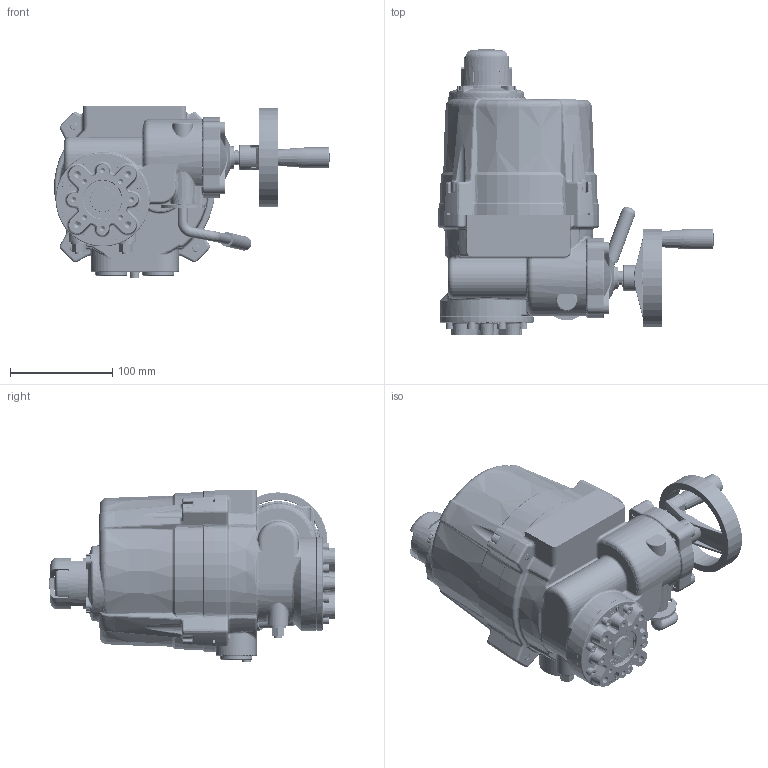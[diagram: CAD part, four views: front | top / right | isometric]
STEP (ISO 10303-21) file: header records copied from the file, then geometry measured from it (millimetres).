
FILE_DESCRIPTION (( 'STEP AP214' ), '1' );
FILE_NAME ('JYH-006-010-ぱ籵羲壽倰.STEP', '2024-07-24T01:23:57', ( 'Windows User' ), ( 'P R C' ), 'SwSTEP 2.0', 'SolidWorks 2015', '' );
FILE_SCHEMA (( 'AUTOMOTIVE_DESIGN' ));
Length unit declared in the file: millimetre
Products named in the file (5): JYH10-62諉華梓祩; JYH10-57-3D指示柱-印字_默认<按加工>; JYH10-72手轮标识垫圈; JYH10-00 軞傖妗极3D俋倛; JYH-006-010-ぱ籵羲壽倰
Assembly tree (4 placements, depth 2):
  JYH-006-010-ぱ籵羲壽倰
    JYH10-00 軞傖妗极3D俋倛
    JYH10-72手轮标识垫圈
    JYH10-57-3D指示柱-印字_默认<按加工>
    JYH10-62諉華梓祩
Bounding box: 269.66 x 279.6 x 169.3 mm (x, y, z)
Volume: 1810583.1 mm3; surface area: 464049 mm2
Topology: 72 solids, 73 shells, 5587 faces, 13980 edges, 8596 vertices
Faces by surface type: bspline 1899, plane 1348, cylinder 1209, torus 597, cone 386, sphere 148
Entity records: 302612 total; most frequent: CARTESIAN_POINT 165865, ORIENTED_EDGE 27476, DIRECTION 21176, EDGE_CURVE 13738, AXIS2_PLACEMENT_3D 8644, VERTEX_POINT 8573, EDGE_LOOP 5985, ADVANCED_FACE 5587
